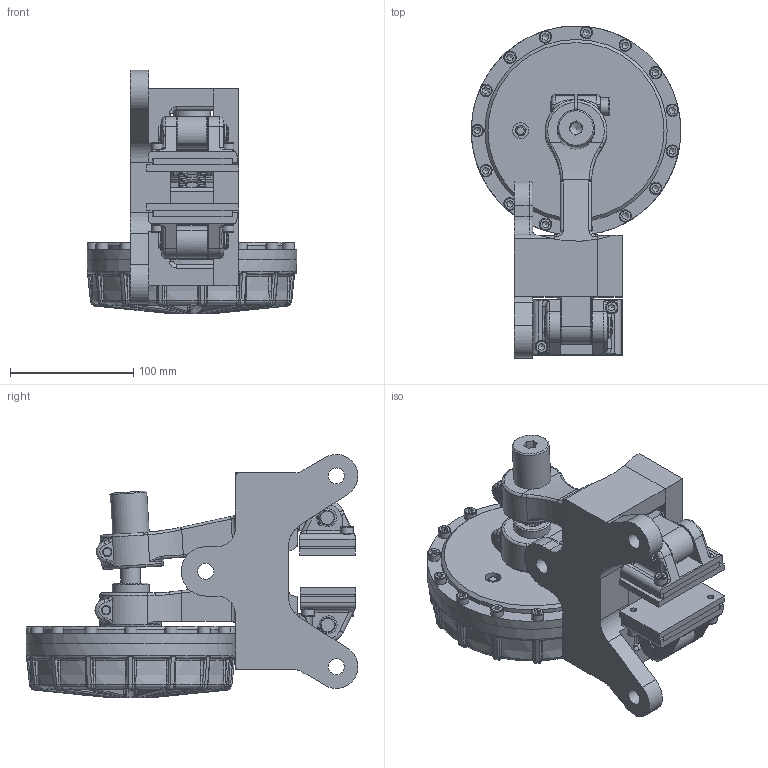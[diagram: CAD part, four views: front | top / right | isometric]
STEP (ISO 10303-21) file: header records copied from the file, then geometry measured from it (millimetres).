
FILE_DESCRIPTION(/* description */ ('','CAx-IF Rec.Pracs.---Representation and Presentation of Product Manufacturing Information (PMI)---4.0---2014-10-13'),/* implementation_level */ '2;1');
FILE_NAME(/* name */ 'X:\INVENTOR\DISEGNI\19_Pinze\STEP x Sito\PNEUM-POSITIVE\19_16_024_04 PPF024_25,4.stp',/* time_stamp */ '2018-02-14T08:50:44+01:00',/* author */ ('stefano'),/* organization */ (''),/* preprocessor_version */ 'ST-DEVELOPER v17',/* originating_system */ 'Autodesk Inventor 2018',/* authorisation */ '');
FILE_SCHEMA (('AP242_MANAGED_MODEL_BASED_3D_ENGINEERING_MIM_LF { 1 0 10303 442 1 1 4 }'));
Products named in the file (1): 19_16_024_04 PPF024_25,4_Substitute_2
Bounding box: 170 x 269.44 x 197.5 mm (x, y, z)
Volume: 2151870.8 mm3; surface area: 269122.7 mm2
Topology: 5 solids, 5 shells, 1943 faces, 5192 edges, 3290 vertices
Faces by surface type: plane 666, cylinder 514, bspline 480, torus 178, cone 105
Full cylindrical faces by diameter (mm): 1.7 x14, 4.917 x8, 5 x1, 7.25 x2, 8 x2, 8.5 x2, 10 x26, 10.5 x2, 11.5 x4, 12 x11, 13 x6, 13.3 x6, 13.5 x2, 14 x12, 14.95 x1, 16 x4, 16.5 x2, 19 x1, 22.6 x1, 30 x2, 40 x1, 120 x1, 148 x1, 170 x2
Entity records: 79901 total; most frequent: CARTESIAN_POINT 32491, ORIENTED_EDGE 10310, DIRECTION 8687, EDGE_CURVE 5155, AXIS2_PLACEMENT_3D 3507, VERTEX_POINT 3290, EDGE_LOOP 2064, FACE_OUTER_BOUND 1943
